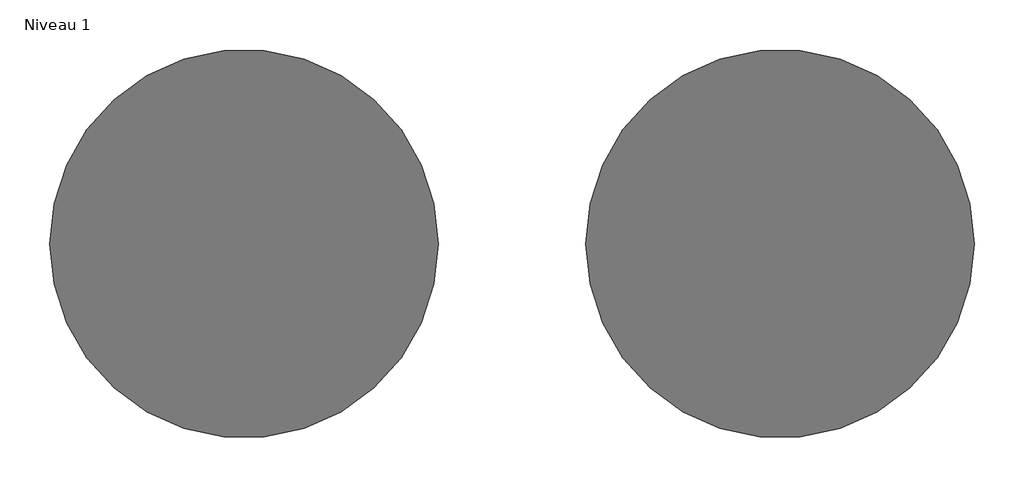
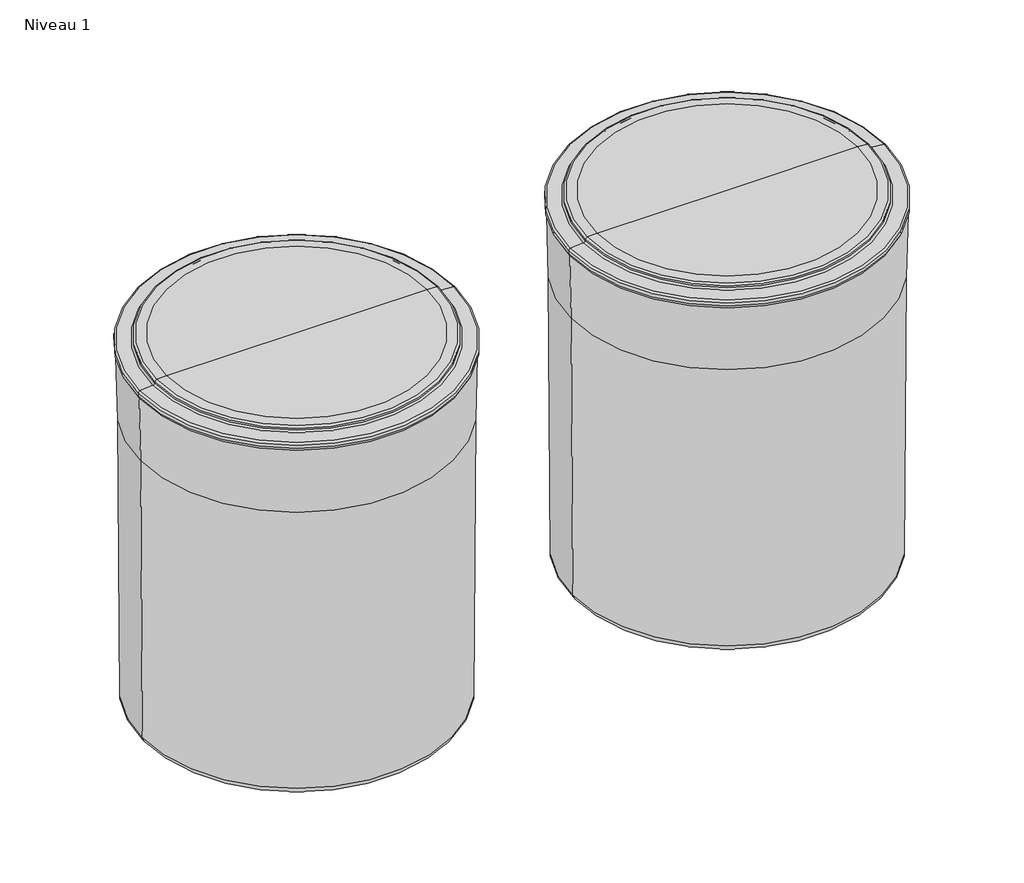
# One storey, incomplete: 2 proxies.
"""IFC4 building model written with IfcOpenShell, lengths in millimetres."""

from ifc_helpers import new_model, si_unit, origin, place, context, project, spatial, transform, mapped, element, save
from components import proxy_1560_x_1300_mm_c9167b54

model = new_model("IFC4")

# Units and contexts
model_context = context("Model", 3, world=origin())
ifc_project = project(units=[si_unit("LENGTHUNIT", "METRE", prefix="MILLI")], contexts=[model_context])

# Site, building, storey
site = spatial("IfcSite", under=ifc_project)
building = spatial("IfcBuilding", under=site)
storey = spatial("IfcBuildingStorey", under=building, Name="Niveau 1", Elevation=0.0)

# Proxies
placement = place(None, origin())
proxy_1560_x_1300_mm_shape = proxy_1560_x_1300_mm_c9167b54(model_context)
element("IfcBuildingElementProxy", 1, Name="BWT_Bac à sel type 1 : 1560 x 1300 mm", ObjectType="BWT_Bac à sel type 1 : 1560 x 1300 mm", at=placement, inside=storey, context=model_context, shape_type="MappedRepresentation", body=[
    mapped(proxy_1560_x_1300_mm_shape, transform((12317.7131695, -4954.6822378, 0.0), x_axis=(1.0, 0.0, 0.0), y_axis=(0.0, 1.0, 0.0), z_axis=(0.0, 0.0, 1.0))),
])
element("IfcBuildingElementProxy", 2, Name="BWT_Bac à sel type 1 : 1560 x 1300 mm", ObjectType="BWT_Bac à sel type 1 : 1560 x 1300 mm", at=placement, inside=storey, context=model_context, shape_type="MappedRepresentation", body=[
    mapped(proxy_1560_x_1300_mm_shape, transform((14079.2914864, -4954.6822378, 0.0), x_axis=(1.0, 0.0, 0.0), y_axis=(0.0, 1.0, 0.0), z_axis=(0.0, 0.0, 1.0))),
])

save(model, "model.ifc")
